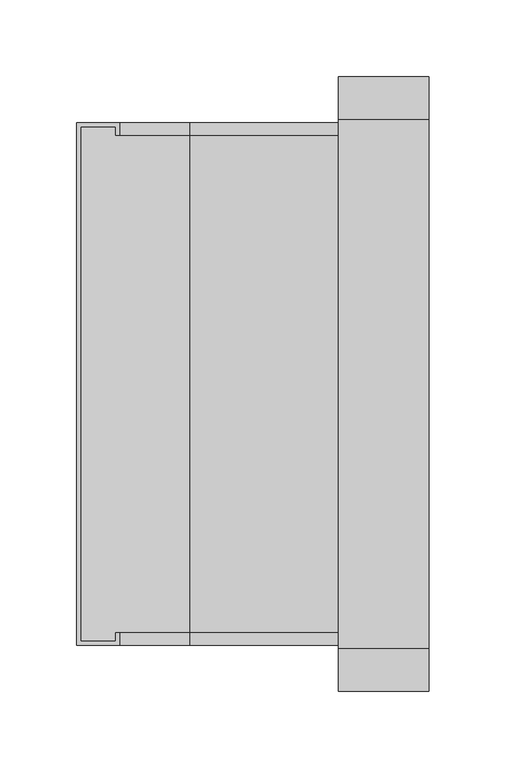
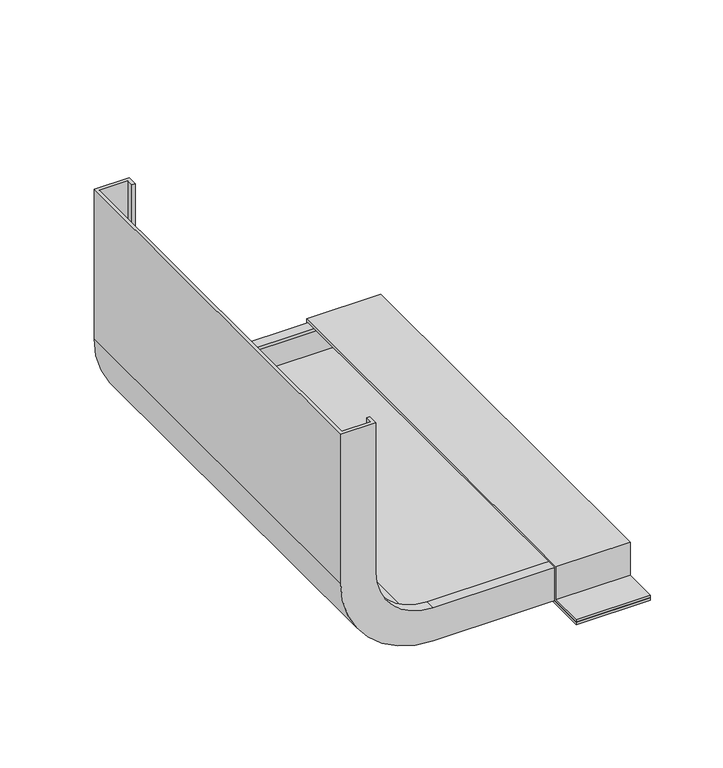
"""IFC4 building model written with IfcOpenShell, lengths in millimetres: cable carrier fitting geometry, Electrical-Installations_Hager_Vertical-Elbow-UKK : Vertical-Elbow-3-Compartments-UKK."""

from ifc_helpers import new_model, si_unit, frame, origin, place, context, project, spatial, polyline, circle_curve, outline, extrude, source, transform, mapped, element, save
from ifc_brep_helpers import plane_surface, cylinder_surface, revolved_surface, advanced_brep


def cable_carrier_fitting_87aa20dd(model_context):
    return source(origin(), model_context, "Body", "SolidModel", [
        extrude(outline(polyline([(29.5, 200.0), (29.5, -200.0), (-29.5, -200.0), (-29.5, 200.0), (29.5, 200.0)])), frame((0.0, 0.0, -16.0), z_axis=(0.0, 0.0, 1.0), x_axis=(1.0, 0.0, 0.0)), (0.0, 0.0, 1.0), 2.0),
        extrude(outline(polyline([(170.0, 14.0), (-170.0, 14.0), (-170.0, -14.0), (-200.0, -14.0), (-200.0, -12.0), (-172.0, -12.0), (-172.0, 16.0), (172.0, 16.0), (172.0, -12.0), (200.0, -12.0), (200.0, -14.0), (170.0, -14.0), (170.0, 14.0)])), frame((-29.5, 0.0, 0.0), z_axis=(1.0, 0.0, 0.0), x_axis=(0.0, 1.0, 0.0)), (0.0, 0.0, 1.0), 59.0),
        advanced_brep(
        [(0.0, -170.0, 14.0), (0.0, -170.0, -14.0), (0.0, 170.0, -14.0), (0.0, 170.0, 14.0), (0.0, 162.0398749, 14.0), (0.0, 162.0398749, 11.46), (0.0, 167.46, 11.46), (0.0, 167.46, -11.46), (0.0, -167.46, -11.46), (0.0, -167.46, 11.46), (0.0, -161.8310402, 11.46), (0.0, -161.8310402, 14.0), (-126.0, -170.0, 14.0), (-172.0, -170.0, 60.0), (-172.0, -170.0, 186.0), (-200.0, -170.0, 186.0), (-200.0, -170.0, 60.0), (-126.0, -170.0, -14.0), (-126.0, 170.0, -14.0), (-200.0, 170.0, 60.0), (-200.0, 170.0, 186.0), (-172.0, 170.0, 186.0), (-172.0, 170.0, 60.0), (-126.0, 170.0, 14.0), (-126.0, 162.0398749, 14.0), (-172.0, 162.0398749, 60.0), (-172.0, 162.0398749, 186.0), (-174.54, 162.0398749, 186.0), (-174.54, 162.0398749, 60.0), (-126.0, 162.0398749, 11.46), (-126.0, 167.46, 11.46), (-174.54, 167.46, 60.0), (-174.54, 167.46, 186.0), (-197.46, 167.46, 186.0), (-197.46, 167.46, 60.0), (-126.0, 167.46, -11.46), (-126.0, -167.46, -11.46), (-197.46, -167.46, 60.0), (-197.46, -167.46, 186.0), (-174.54, -167.46, 186.0), (-174.54, -167.46, 60.0), (-126.0, -167.46, 11.46), (-126.0, -161.8310402, 11.46), (-174.54, -161.8310402, 60.0), (-174.54, -161.8310402, 186.0), (-172.0, -161.8310402, 186.0), (-172.0, -161.8310402, 60.0), (-126.0, -161.8310402, 14.0)],
        [
            (0, 1),
            (1, 2),
            (2, 3),
            (3, 4),
            (4, 5),
            (5, 6),
            (6, 7),
            (7, 8),
            (8, 9),
            (9, 10),
            (10, 11),
            (11, 0),
            (0, 12),
            (12, 13, circle_curve(frame((-126.0, -170.0, 60.0), z_axis=(0.0, 1.0, 0.0), x_axis=(0.0, 0.0, -1.0)), 46.0)),
            (13, 14),
            (14, 15),
            (15, 16),
            (16, 17, circle_curve(frame((-126.0, -170.0, 60.0), z_axis=(0.0, -1.0, 0.0), x_axis=(0.0, 0.0, -1.0)), 74.0)),
            (17, 1),
            (17, 18),
            (18, 2),
            (18, 19, circle_curve(frame((-126.0, 170.0, 60.0), z_axis=(0.0, 1.0, 0.0), x_axis=(0.0, 0.0, -1.0)), 74.0)),
            (19, 20),
            (20, 21),
            (21, 22),
            (22, 23, circle_curve(frame((-126.0, 170.0, 60.0), z_axis=(0.0, -1.0, 0.0), x_axis=(0.0, 0.0, -1.0)), 46.0)),
            (23, 3),
            (23, 24),
            (24, 4),
            (24, 25, circle_curve(frame((-126.0, 162.0398749, 60.0), z_axis=(0.0, 1.0, 0.0), x_axis=(0.0, 0.0, -1.0)), 46.0)),
            (25, 26),
            (26, 27),
            (27, 28),
            (28, 29, circle_curve(frame((-126.0, 162.0398749, 60.0), z_axis=(0.0, -1.0, 0.0), x_axis=(0.0, 0.0, -1.0)), 48.54)),
            (29, 5),
            (29, 30),
            (30, 6),
            (30, 31, circle_curve(frame((-126.0, 167.46, 60.0), z_axis=(0.0, 1.0, 0.0), x_axis=(0.0, 0.0, -1.0)), 48.54)),
            (31, 32),
            (32, 33),
            (33, 34),
            (34, 35, circle_curve(frame((-126.0, 167.46, 60.0), z_axis=(0.0, -1.0, 0.0), x_axis=(0.0, 0.0, -1.0)), 71.46)),
            (35, 7),
            (35, 36),
            (36, 8),
            (36, 37, circle_curve(frame((-126.0, -167.46, 60.0), z_axis=(0.0, 1.0, 0.0), x_axis=(0.0, 0.0, -1.0)), 71.46)),
            (37, 38),
            (38, 39),
            (39, 40),
            (40, 41, circle_curve(frame((-126.0, -167.46, 60.0), z_axis=(0.0, -1.0, 0.0), x_axis=(0.0, 0.0, -1.0)), 48.54)),
            (41, 9),
            (41, 42),
            (42, 10),
            (42, 43, circle_curve(frame((-126.0, -161.8310402, 60.0), z_axis=(0.0, 1.0, 0.0), x_axis=(0.0, 0.0, -1.0)), 48.54)),
            (43, 44),
            (44, 45),
            (45, 46),
            (46, 47, circle_curve(frame((-126.0, -161.8310402, 60.0), z_axis=(0.0, -1.0, 0.0), x_axis=(0.0, 0.0, -1.0)), 46.0)),
            (47, 11),
            (47, 12),
            (14, 45),
            (44, 39),
            (38, 33),
            (32, 27),
            (26, 21),
            (20, 15),
            (19, 16),
            (25, 22),
            (31, 28),
            (37, 34),
            (43, 40),
            (13, 46),
        ],
        [
            plane_surface(frame((0.0, 0.0, 0.0), z_axis=(1.0, 0.0, 0.0), x_axis=(0.0, -1.0, 0.0))),
            plane_surface(frame((0.0, -170.0, 14.0), z_axis=(0.0, -1.0, 0.0), x_axis=(-1.0, 0.0, 0.0))),
            plane_surface(frame((0.0, -170.0, -14.0), z_axis=(0.0, 0.0, -1.0), x_axis=(-1.0, 0.0, 0.0))),
            plane_surface(frame((0.0, 170.0, -14.0), z_axis=(0.0, 1.0, 0.0), x_axis=(-1.0, 0.0, 0.0))),
            plane_surface(frame((0.0, 170.0, 14.0), z_axis=(0.0, 0.0, 1.0), x_axis=(-1.0, 0.0, 0.0))),
            plane_surface(frame((0.0, 162.0398749, 14.0), z_axis=(0.0, -1.0, 0.0), x_axis=(-1.0, 0.0, 0.0))),
            plane_surface(frame((0.0, 162.0398749, 11.46), z_axis=(0.0, 0.0, -1.0), x_axis=(-1.0, 0.0, 0.0))),
            plane_surface(frame((0.0, 167.46, 11.46), z_axis=(0.0, -1.0, 0.0), x_axis=(-1.0, 0.0, 0.0))),
            plane_surface(frame((0.0, 167.46, -11.46), z_axis=(0.0, 0.0, 1.0), x_axis=(-1.0, 0.0, 0.0))),
            plane_surface(frame((0.0, -167.46, -11.46), z_axis=(0.0, 1.0, 0.0), x_axis=(-1.0, 0.0, 0.0))),
            plane_surface(frame((0.0, -167.46, 11.46), z_axis=(0.0, 0.0, -1.0), x_axis=(-1.0, 0.0, 0.0))),
            plane_surface(frame((0.0, -161.8310402, 11.46), z_axis=(0.0, 1.0, 0.0), x_axis=(-1.0, 0.0, 0.0))),
            plane_surface(frame((0.0, -161.8310402, 14.0), z_axis=(0.0, 0.0, 1.0), x_axis=(-1.0, 0.0, 0.0))),
            plane_surface(frame((-186.0, 0.0, 186.0), z_axis=(0.0, 0.0, 1.0), x_axis=(0.0, -1.0, 0.0))),
            plane_surface(frame((-200.0, -170.0, 60.0), z_axis=(-1.0, 0.0, 0.0), x_axis=(0.0, 0.0, 1.0))),
            plane_surface(frame((-172.0, 170.0, 60.0), z_axis=(1.0, 0.0, 0.0), x_axis=(0.0, 0.0, 1.0))),
            plane_surface(frame((-174.54, 162.0398749, 60.0), z_axis=(-1.0, 0.0, 0.0), x_axis=(0.0, 0.0, 1.0))),
            plane_surface(frame((-197.46, 167.46, 60.0), z_axis=(1.0, 0.0, 0.0), x_axis=(0.0, 0.0, 1.0))),
            plane_surface(frame((-174.54, -167.46, 60.0), z_axis=(-1.0, 0.0, 0.0), x_axis=(0.0, 0.0, 1.0))),
            plane_surface(frame((-172.0, -161.8310402, 60.0), z_axis=(1.0, 0.0, 0.0), x_axis=(0.0, 0.0, 1.0))),
            cylinder_surface(frame((-126.0, 0.0, 60.0), z_axis=(0.0, 1.0, 0.0), x_axis=(0.0, 0.0, -1.0)), 74.0),
            revolved_surface(polyline([(-126.0, 170.0, 14.0), (-126.0, 162.0398749, 14.0)]), (-126.0, 0.0, 60.0), (0.0, 1.0, 0.0)),
            cylinder_surface(frame((-126.0, 0.0, 60.0), z_axis=(0.0, 1.0, 0.0), x_axis=(0.0, 0.0, -1.0)), 48.54),
            revolved_surface(polyline([(-126.0, 167.46, -11.459999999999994), (-126.0, -167.46, -11.459999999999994)]), (-126.0, 0.0, 60.0), (0.0, 1.0, 0.0)),
            revolved_surface(polyline([(-126.0, -161.8310402, 14.0), (-126.0, -170.0, 14.0)]), (-126.0, 0.0, 60.0), (0.0, 1.0, 0.0)),
        ],
        [
            (0, [[1, 2, 3, 4, 5, 6, 7, 8, 9, 10, 11, 12]]),
            (1, [[-1, 13, 14, 15, 16, 17, 18, 19]]),
            (2, [[-2, -19, 20, 21]]),
            (3, [[-3, -21, 22, 23, 24, 25, 26, 27]]),
            (4, [[-4, -27, 28, 29]]),
            (5, [[-5, -29, 30, 31, 32, 33, 34, 35]]),
            (6, [[-6, -35, 36, 37]]),
            (7, [[-7, -37, 38, 39, 40, 41, 42, 43]]),
            (8, [[-8, -43, 44, 45]]),
            (9, [[-9, -45, 46, 47, 48, 49, 50, 51]]),
            (10, [[-10, -51, 52, 53]]),
            (11, [[-11, -53, 54, 55, 56, 57, 58, 59]]),
            (12, [[-12, -59, 60, -13]]),
            (13, [[61, -56, 62, -48, 63, -40, 64, -32, 65, -24, 66, -16]]),
            (14, [[67, -17, -66, -23]]),
            (15, [[68, -25, -65, -31]]),
            (16, [[69, -33, -64, -39]]),
            (17, [[70, -41, -63, -47]]),
            (18, [[71, -49, -62, -55]]),
            (19, [[72, -57, -61, -15]]),
            (20, [[-22, -20, -18, -67]]),
            (21, [[-30, -28, -26, -68]]),
            (22, [[-38, -36, -34, -69]]),
            (23, [[-46, -44, -42, -70]]),
            (22, [[-54, -52, -50, -71]]),
            (24, [[-14, -60, -58, -72]]),
        ],
    ),
    ])


if __name__ == "__main__":
    model = new_model("IFC4")
    model_context = context("Model", 3, world=origin())
    ifc_project = project(units=[si_unit("LENGTHUNIT", "METRE", prefix="MILLI")], contexts=[model_context])
    site = spatial("IfcSite", under=ifc_project)
    building = spatial("IfcBuilding", under=site)
    placement = place(None, origin())
    cable_carrier_fitting_shape = cable_carrier_fitting_87aa20dd(model_context)
    element("IfcCableCarrierFitting", 1, ObjectType="Electrical-Installations_Hager_Vertical-Elbow-UKK : Vertical-Elbow-3-Compartments-UKK", at=placement, inside=building, context=model_context, shape_type="MappedRepresentation", body=[
        mapped(cable_carrier_fitting_shape, transform((0.0, 0.0, 0.0), x_axis=(1.0, 0.0, 0.0), y_axis=(0.0, 1.0, 0.0), z_axis=(0.0, 0.0, 1.0))),
    ])
    save(model, "model.ifc")
